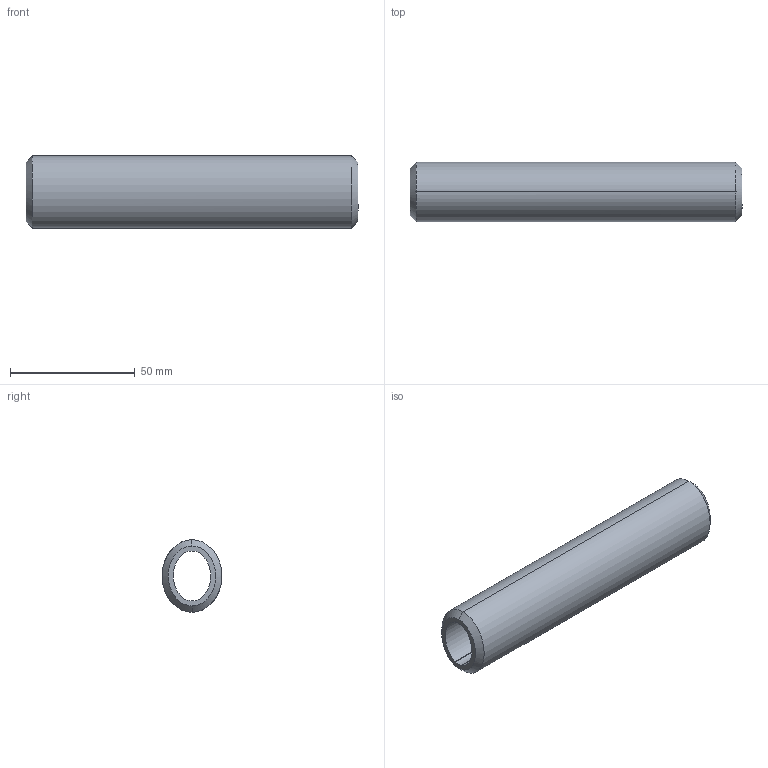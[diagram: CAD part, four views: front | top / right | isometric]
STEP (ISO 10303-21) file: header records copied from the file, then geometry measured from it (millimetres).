
FILE_DESCRIPTION (( 'STEP AP214' ), '1' );
FILE_NAME ('Rubber_Grip.STEP', '2015-02-28T17:28:10', ( '' ), ( '' ), '', '', '' );
FILE_SCHEMA (( '' ));
Length unit declared in the file: millimetre
Products named in the file (1): Rubber_Grip
Bounding box: 133 x 24 x 29 mm (x, y, z)
Volume: 40863.8 mm3; surface area: 18857.4 mm2
Topology: 1 solids, 1 shells, 21 faces, 53 edges, 34 vertices
Faces by surface type: bspline 11, plane 10
Entity records: 1155 total; most frequent: CARTESIAN_POINT 720, ORIENTED_EDGE 106, DIRECTION 53, EDGE_CURVE 53, VERTEX_POINT 34, LINE 31, VECTOR 31, EDGE_LOOP 23
